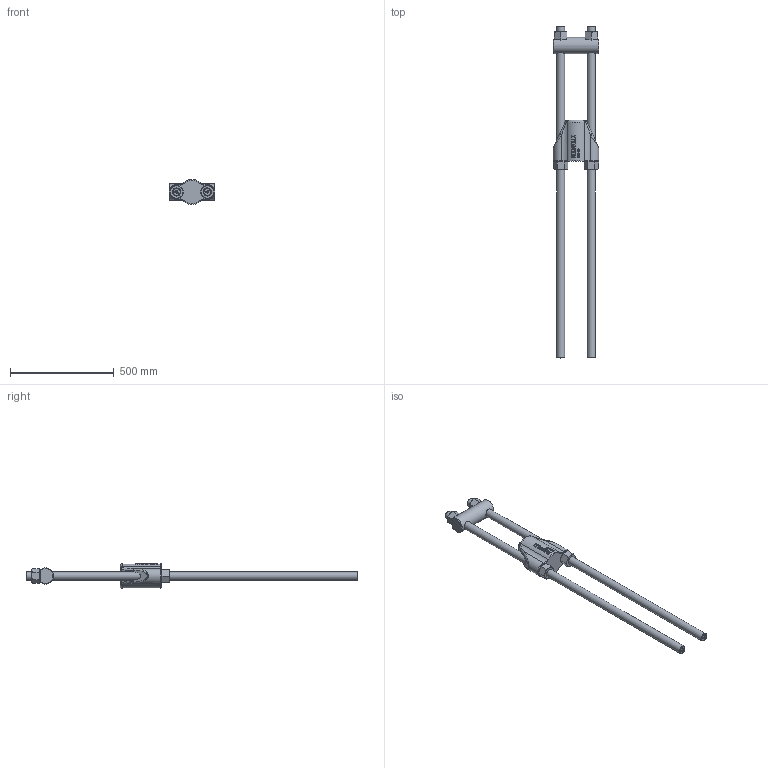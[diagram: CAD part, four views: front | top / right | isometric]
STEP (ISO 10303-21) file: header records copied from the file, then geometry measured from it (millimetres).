
FILE_DESCRIPTION(/* description */ (''),/* implementation_level */ '2;1');
FILE_NAME(/* name */ 'D:\Clienti\Redaelli (inventor)\BRC\STEP\Arrangemet\BRC036 72 111 0.stp',/* time_stamp */ '2021-05-08T08:24:02+02:00',/* author */ ('fabri'),/* organization */ (''),/* preprocessor_version */ 'ST-DEVELOPER v16.13',/* originating_system */ 'Autodesk Inventor 2018',/* authorisation */ '');
FILE_SCHEMA (('AUTOMOTIVE_DESIGN { 1 0 10303 214 3 1 1 }'));
Length unit declared in the file: millimetre
Products named in the file (5): BRC020 72 111 0; BRC020 71 112 0; BRC020 71 114 0_ROD; BRC020 71 113 0; BRC020 71 114 0_NUT
Assembly tree (8 placements, depth 2):
  BRC020 72 111 0
    BRC020 71 112 0
    BRC020 71 114 0_ROD  x2
    BRC020 71 113 0
    BRC020 71 114 0_NUT  x4
Bounding box: 220 x 1600 x 119.72 mm (x, y, z)
Volume: 7678227 mm3; surface area: 686195 mm2
Topology: 8 solids, 8 shells, 1666 faces, 4452 edges, 2936 vertices
Faces by surface type: bspline 807, plane 725, cone 62, cylinder 48, torus 20, sphere 4
Full cylindrical faces by diameter (mm): 35.752 x4, 39 x2, 41 x4, 78 x1
Entity records: 32768 total; most frequent: CARTESIAN_POINT 13065, ORIENTED_EDGE 4778, DIRECTION 2661, EDGE_CURVE 2389, VERTEX_POINT 1582, LINE 1269, VECTOR 1269, EDGE_LOOP 993
